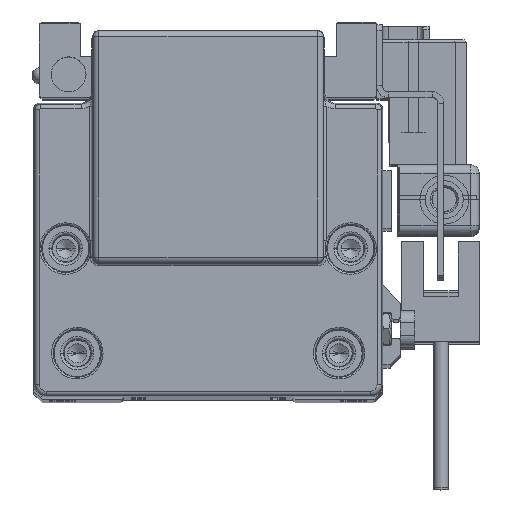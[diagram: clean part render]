
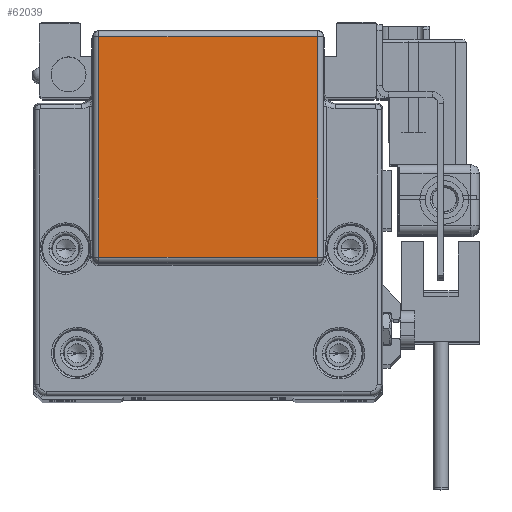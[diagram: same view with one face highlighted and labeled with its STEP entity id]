
A CAD part, top view. The second image highlights one B-rep face of the part: STEP entity #62039.
In plain terms, the highlighted planar face has unit normal (0, 0, 1) as drawn and (0, 0, -1) by its records, which use the part's own axes.
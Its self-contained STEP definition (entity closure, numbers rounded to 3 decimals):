
#49 = CARTESIAN_POINT ( 'NONE',  ( -18.808, 31., -143. ) ) ;
#1262 = VECTOR ( 'NONE', #71295, 1000. ) ;
#2150 = AXIS2_PLACEMENT_3D ( 'NONE', #31057, #71350, #30678 ) ;
#5880 = VECTOR ( 'NONE', #64560, 1000. ) ;
#6757 = VERTEX_POINT ( 'NONE', #60879 ) ;
#7338 = VERTEX_POINT ( 'NONE', #19631 ) ;
#8122 = FACE_OUTER_BOUND ( 'NONE', #54971, .T. ) ;
#8315 = EDGE_CURVE ( 'NONE', #7338, #6757, #43084, .T. ) ;
#8511 = PLANE ( 'NONE',  #2150 ) ;
#8727 = CARTESIAN_POINT ( 'NONE',  ( 18.808, 24.518, -143. ) ) ;
#9164 = LINE ( 'NONE', #19908, #1262 ) ;
#9966 = ORIENTED_EDGE ( 'NONE', *, *, #40294, .F. ) ;
#10063 = LINE ( 'NONE', #49, #63312 ) ;
#14596 = LINE ( 'NONE', #65993, #36770 ) ;
#17602 = ORIENTED_EDGE ( 'NONE', *, *, #64763, .F. ) ;
#19631 = CARTESIAN_POINT ( 'NONE',  ( -18.808, 62.447, -143. ) ) ;
#19908 = CARTESIAN_POINT ( 'NONE',  ( 18.808, 24.5, -143. ) ) ;
#25131 = ORIENTED_EDGE ( 'NONE', *, *, #8315, .T. ) ;
#30510 = EDGE_CURVE ( 'NONE', #41451, #52991, #14596, .T. ) ;
#30678 = DIRECTION ( 'NONE',  ( 0., 1., 0. ) ) ;
#31057 = CARTESIAN_POINT ( 'NONE',  ( 19., 24.5, -143. ) ) ;
#36770 = VECTOR ( 'NONE', #60052, 1000. ) ;
#40294 = EDGE_CURVE ( 'NONE', #7338, #41451, #10063, .T. ) ;
#41451 = VERTEX_POINT ( 'NONE', #72318 ) ;
#43084 = LINE ( 'NONE', #47564, #5880 ) ;
#44835 = ORIENTED_EDGE ( 'NONE', *, *, #30510, .F. ) ;
#47564 = CARTESIAN_POINT ( 'NONE',  ( 19., 62.447, -143. ) ) ;
#49633 = DIRECTION ( 'NONE',  ( 0., -1., 0. ) ) ;
#52991 = VERTEX_POINT ( 'NONE', #8727 ) ;
#54971 = EDGE_LOOP ( 'NONE', ( #17602, #44835, #9966, #25131 ) ) ;
#60052 = DIRECTION ( 'NONE',  ( 1., 0., 0. ) ) ;
#60879 = CARTESIAN_POINT ( 'NONE',  ( 18.808, 62.447, -143. ) ) ;
#62039 = ADVANCED_FACE ( 'NONE', ( #8122 ), #8511, .T. ) ;
#63312 = VECTOR ( 'NONE', #49633, 1000. ) ;
#64560 = DIRECTION ( 'NONE',  ( 1., 0., 0. ) ) ;
#64763 = EDGE_CURVE ( 'NONE', #52991, #6757, #9164, .T. ) ;
#65993 = CARTESIAN_POINT ( 'NONE',  ( 19., 24.518, -143. ) ) ;
#71295 = DIRECTION ( 'NONE',  ( 0., 1., 0. ) ) ;
#71350 = DIRECTION ( 'NONE',  ( 0., 0., -1. ) ) ;
#72318 = CARTESIAN_POINT ( 'NONE',  ( -18.808, 24.518, -143. ) ) ;
